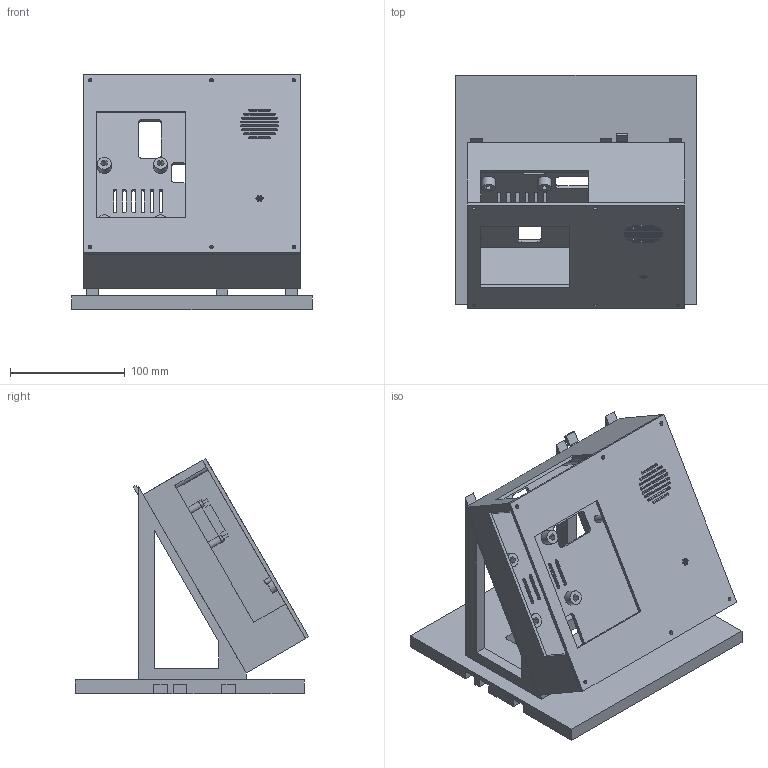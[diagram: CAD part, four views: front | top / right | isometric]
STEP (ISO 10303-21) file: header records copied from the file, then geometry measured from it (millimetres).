
FILE_DESCRIPTION(('Open CASCADE Model'),'2;1');
FILE_NAME('Open CASCADE Shape Model','2026-11-12T17:04:53',('Author'),( 'Open CASCADE'),'Open CASCADE STEP processor 7.8','Open CASCADE 7.8' ,'Unknown');
FILE_SCHEMA(('AUTOMOTIVE_DESIGN { 1 0 10303 214 1 1 1 1 }'));
Length unit declared in the file: millimetre
Products named in the file (5): DK2_60deg_V7_OpenInterior; tray; front_panel; stand; speaker_cassette
Assembly tree (4 placements, depth 2):
  DK2_60deg_V7_OpenInterior
    tray
    front_panel
    stand
    speaker_cassette
Bounding box: 210 x 203.56 x 205.38 mm (x, y, z)
Volume: 885707.4 mm3; surface area: 344249.8 mm2
Topology: 4 solids, 4 shells, 418 faces, 1094 edges, 729 vertices
Faces by surface type: plane 287, cylinder 131
Full cylindrical faces by diameter (mm): 1.6 x9, 2.1 x4, 2.7 x6, 2.8 x4, 3.3 x6, 3.5 x4, 4.1 x2, 4.4 x3, 6 x4, 8 x3, 12 x8
Entity records: 27614 total; most frequent: CARTESIAN_POINT 5508, DIRECTION 4058, LINE 2520, VECTOR 2520, ORIENTED_EDGE 2188, PCURVE 2188, DEFINITIONAL_REPRESENTATION 2188, EDGE_CURVE 1094
